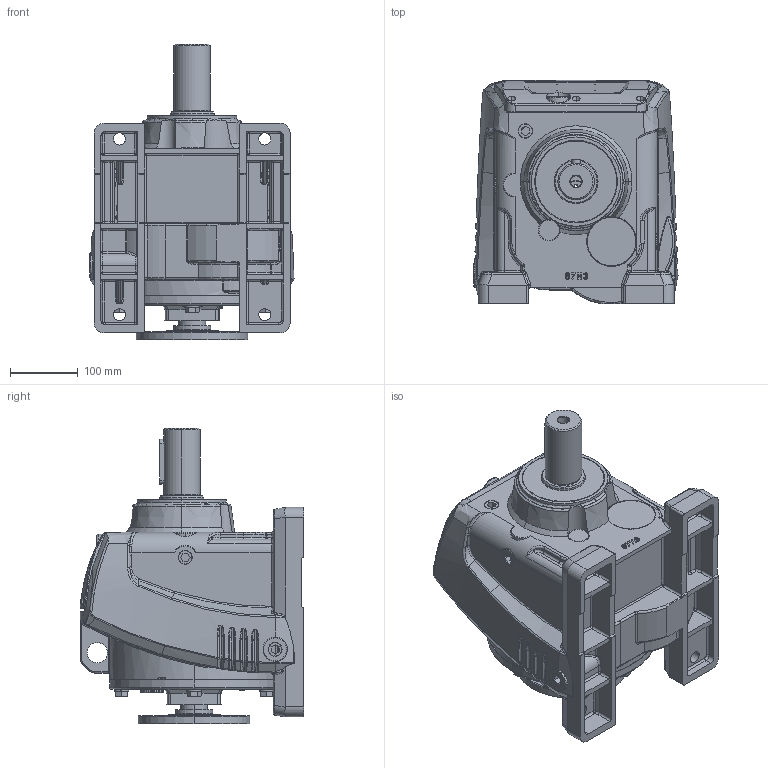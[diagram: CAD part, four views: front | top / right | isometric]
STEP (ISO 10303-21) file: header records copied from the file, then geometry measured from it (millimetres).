
FILE_DESCRIPTION (( 'STEP AP203' ), '1' );
FILE_NAME ('WINL87-145TC.STEP', '2013-09-26T10:35:50', ( 'User' ), ( 'Chenta' ), 'SwSTEP 2.0', 'SolidWorks 2011', '' );
FILE_SCHEMA (( 'CONFIG_CONTROL_DESIGN' ));
Products named in the file (1): WINL87-145TC
Bounding box: 301.8 x 330 x 437 mm (x, y, z)
Surface area: 780729.7 mm2 (no closed solid volume)
Topology: 0 solids, 40 shells, 1554 faces, 4361 edges, 2746 vertices
Faces by surface type: bspline 561, cylinder 398, plane 365, sphere 79, torus 78, cone 73
Entity records: 74752 total; most frequent: CARTESIAN_POINT 39504, ORIENTED_EDGE 7768, DIRECTION 6229, EDGE_CURVE 4308, VERTEX_POINT 2745, AXIS2_PLACEMENT_3D 2398, EDGE_LOOP 1679, ADVANCED_FACE 1554
